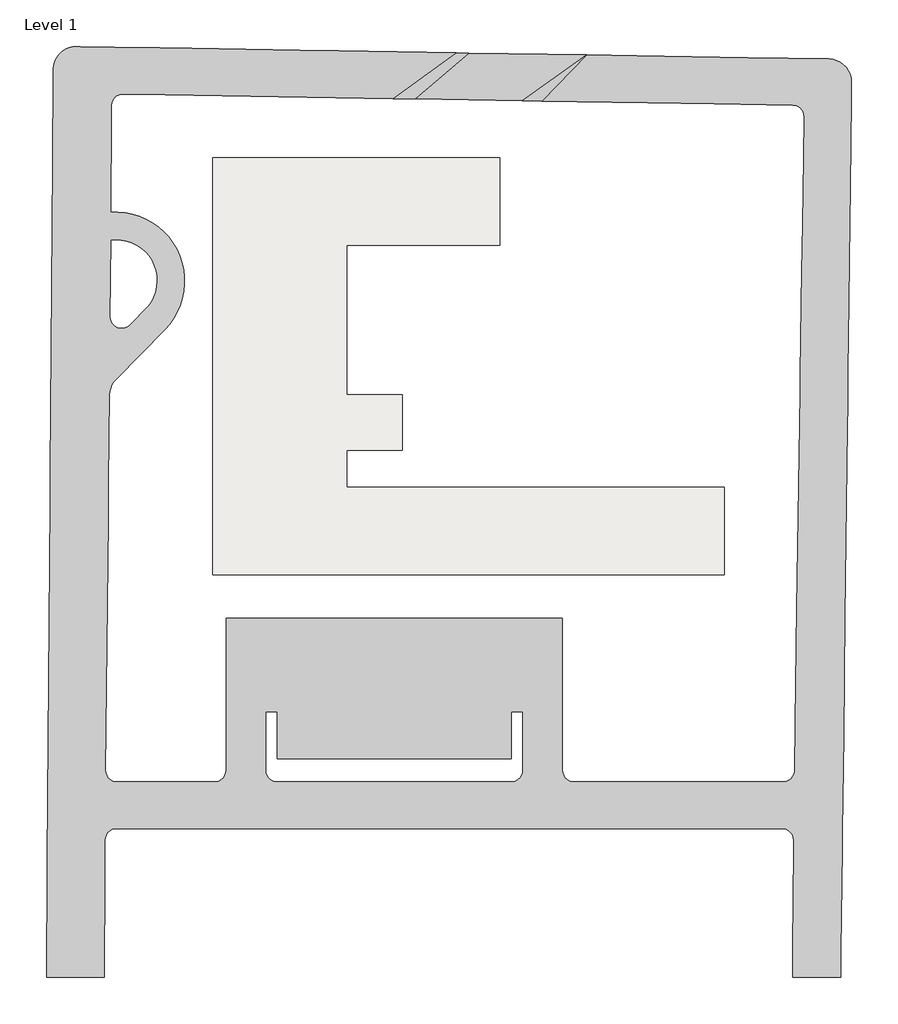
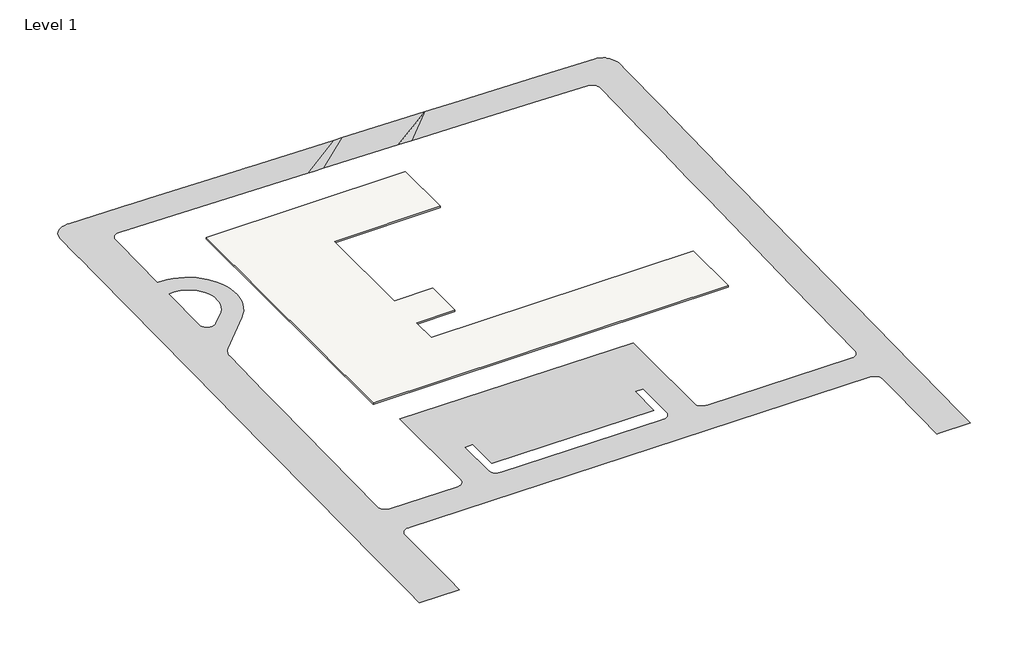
# One storey, incomplete: 1 proxy, 1 slab.
"""IFC4 building model written with IfcOpenShell, lengths in millimetres."""

from ifc_helpers import new_model, si_unit, frame, origin, place, context, project, spatial, polyline, outline, extrude, triangles, element, save

model = new_model("IFC4")

# Units and contexts
model_context = context("Model", 3, world=origin())
ifc_project = project(units=[si_unit("LENGTHUNIT", "METRE", prefix="MILLI")], contexts=[model_context])

# Site, building, storey
site = spatial("IfcSite", under=ifc_project)
building = spatial("IfcBuilding", under=site)
storey = spatial("IfcBuildingStorey", under=building, Name="Level 1", Elevation=0.0)

# Proxy
placement = place(None, origin())
element("IfcBuildingElementProxy", 1, Name="Building Element Proxy", at=placement, inside=storey, context=model_context, shape_type="Tessellation", body=[
    triangles([(70309.7548828, 43704.7137085, -503.1527547), (59746.7205688, 43879.5355957, -409.5406998), (45204.5570435, 44120.2092773, -278.9620967), (38757.531958, 44226.9097412, -221.9724431), (23364.4389771, 44481.6709351, -156.1477909), (21717.2139404, 44508.9297363, -142.0965501), (6393.8684464, 44762.5375122, -90.4671433), (5400.4215271, 44778.9783691, -82.337625), (4865.9067696, 44787.8243408, -77.7485065), (-12710.3334778, 45078.713562, 0.0), (-15873.5427246, 45131.063855, 0.0), (-16899.8986816, 45148.0535156, 0.0), (-18318.9248566, 45171.5358032, 0.0), (-27271.6376953, 45319.7081543, 0.0), (-27739.5370422, 45327.4518677, 0.0), (-28264.1631592, 45290.0215942, 0.0), (-28774.1901672, 45161.5457153, 0.0), (-29253.9399536, 44945.9681763, 0.0), (-29688.6669067, 44649.9211304, 0.0), (-30065.011377, 44282.4970459, 0.0), (-30371.4019775, 43854.9975586, 0.0), (-30598.4230042, 43380.5567505, 0.0), (-30739.095813, 42873.755127, 0.0), (-30774.2820374, 42505.3404053, 0.0), (-30789.0997375, 42350.1824341, 0.0), (-30826.2091003, 37362.3357239, 0.0), (-30846.2706665, 34666.046814, 0.0), (-30866.6136108, 31931.7206909, 0.0), (-30881.1615601, 29976.3260925, 0.0), (-31178.6689819, -10010.6343109, -207.3751146), (-31210.48797, -14287.2639679, -204.6609452), (-31497.0379211, -52801.7491333, -266.5873434), (-31555.039032, -60597.5337524, -270.2372659), (-31589.4253052, -65219.0051514, -268.7266387), (-31643.7243164, -72517.2666504, -271.4929306), (-31669.8878357, -76033.9217651, -274.6117809), (-24160.2671448, -76033.9217651, -310.0829624), (-24142.5124146, -72689.0654663, -307.0827822), (-24105.6565247, -65746.3078491, -304.3811666), (-24077.8698486, -60511.7901489, -306.0387689), (-24065.2287598, -58130.4099243, -304.8994852), (-24026.1078918, -57797.9371948, -304.9195058), (-23914.2263489, -57482.4262207, -305.296881), (-23735.1558838, -57199.58302, -306.0128257), (-23497.8145569, -56963.4997559, -307.0316588), (-23214.0249023, -56785.9338501, -308.3026568), (-22897.9232666, -56675.7266235, -309.7624878), (-22565.2505493, -56638.3707642, -311.3384454), (64236.9255615, -56638.3707642, -727.4583584), (64572.5050781, -56676.3916992, -729.0862387), (64891.0763306, -56788.5243896, -730.6698629), (65176.4821655, -56969.0808105, -732.1290762), (65414.2630005, -57208.917334, -733.3898277), (65592.3591064, -57495.8672607, -734.388168), (65701.7431274, -57815.3872925, -735.0735186), (65736.8712158, -58151.2830688, -735.411216), (65725.4161011, -59481.9460327, -736.0267307), (65617.0645752, -72068.0940674, -731.8423204), (65594.0241211, -74744.2935059, -732.8418961), (65582.9224731, -76033.9217651, -733.9841955), (71858.6882446, -76033.9217651, -763.6273716), (71872.4455444, -74888.0893799, -762.6301214), (71900.9879883, -72510.8577393, -761.780464), (72058.2946655, -59409.3225586, -766.3492258), (72088.2556274, -56913.7725586, -765.2354856), (72236.0838135, -44601.7705811, -745.7063725), (72423.0165894, -29032.4023132, -755.9717342), (72719.4775635, -4341.2027504, -628.4104797), (72753.9498779, -1469.8299053, -630.6149237), (72809.2767334, 3138.1529274, -631.3624071), (72861.5572632, 7492.5426636, -597.4576089), (72914.4470581, 11897.6051788, -595.5837407), (72981.5592407, 17486.9884277, -555.8220689), (73096.2220093, 27037.1194519, -545.4053719), (73231.3532959, 38291.881311, -535.7858282), (73259.8957397, 40669.1083008, -533.0508934), (73220.8237061, 41189.0672607, -532.0520082), (73092.3059692, 41694.4085083, -530.2807137), (72878.2306641, 42169.863208, -527.790495), (72585.0625122, 42601.0694458, -524.6566383), (72221.661438, 42975.0001099, -520.9737236), (71799.0035156, 43280.3582153, -516.8530812), (71329.8554077, 43507.9210693, -512.4191949), (70828.3883423, 43650.810022, -507.805959), (65844.943689, -49064.5493408, -722.6902628), (65789.1005859, -49448.423584, -723.0558655), (65636.6912842, -49805.1366943, -722.9182285), (65397.8965576, -50110.8436157, -722.2866537), (65088.6968262, -50345.0897827, -721.2032896), (64729.7652466, -50492.2110352, -719.7405882), (64345.1050049, -50542.3707642, -717.9963633), (37077.7972778, -50542.3707642, -588.5132421), (36744.0176514, -50504.7637573, -586.8664312), (36426.9718872, -50393.8263428, -585.1785982), (36142.5636658, -50215.1163208, -583.5344035), (35905.0502563, -49977.6052368, -582.0162549), (35726.3448853, -49693.1946899, -580.7002742), (35615.4051453, -49376.1535767, -579.6525184), (35577.7981384, -49042.3692993, -578.9254552), (35577.7981384, -33859.242572, -553.9764693), (35577.7981384, -29206.3707642, -556.7423615), (19700.1347351, -29206.3707642, -470.933246), (-8262.2014984, -29206.3707642, -338.1496722), (-8262.2014984, -49042.3692993, -370.7442307), (-8299.809668, -49376.1535767, -371.1141209), (-8410.7482452, -49693.1946899, -371.1082709), (-8589.4541977, -49977.6052368, -370.7270079), (-8826.9670258, -50215.1163208, -369.9894075), (-9111.3758286, -50393.8263428, -368.9324953), (-9428.4198486, -50504.7637573, -367.6092839), (-9762.2018005, -50542.3707642, -366.0860484), (-22489.1714722, -50542.3707642, -305.6500208), (-22825.1137573, -50504.2661133, -303.9921278), (-23143.9896423, -50391.896228, -302.2932489), (-23429.5977905, -50210.9584351, -300.6396798), (-23667.4274597, -49970.6568237, -299.1154451), (-23845.3979919, -49683.1953003, -297.7979565), (-23954.4657532, -49363.1729736, -296.7541793), (-23989.0915466, -49026.8539673, -296.0371083), (-23652.649292, -16502.0508728, -244.1898914), (-23599.8943726, -11402.1330963, -247.506604), (-23482.8736084, -89.4265001, -188.980616), (-23435.7322998, 363.1888415, -186.8231895), (-23321.7694885, 803.7518847, -185.0184487), (-23143.5268799, 1222.4547432, -183.6065799), (-22904.9670227, 1609.9761475, -182.6190312), (-22611.4058716, 1957.6892258, -182.0777488), (-16262.7991974, 8428.9988754, -175.8430458), (-15636.7711304, 9137.9788559, -174.858531), (-15088.4732025, 9908.6498383, -173.2149359), (-14623.9422546, 10732.5286194, -170.9304096), (-14248.2919281, 11600.5442413, -168.0300416), (-13965.658017, 12503.1414734, -164.5458066), (-13779.1507965, 13430.3848755, -160.5160562), (-13690.8247925, 14372.0646057, -155.9851373), (-13701.6508759, 15317.8173431, -151.0029196), (-13811.5116119, 16257.2297699, -145.624269), (-14019.1954468, 17179.959494, -139.9083933), (-14322.4187988, 18075.8513214, -133.9182157), (-14717.8411743, 18935.0395752, -127.7196841), (-15201.1093506, 19748.0690186, -121.3810176), (-15766.9062103, 20505.9855469, -114.9720157), (-16409.0007385, 21200.4478088, -108.5632226), (-17120.3235992, 21823.812085, -102.225192), (-17893.0473633, 22369.2160034, -96.027696), (-18718.662085, 22830.6506287, -90.0389536), (-19588.0811096, 23203.0418518, -84.3249038), (-20491.7329285, 23482.2875977, -78.9484514), (-21419.6693115, 23665.3136353, -73.9687681), (-22361.6746033, 23750.1084595, -69.4406833), (-23307.3796692, 23735.7325928, -65.4140441), (-23213.5342346, 36349.1487305, 0.0), (-23203.9185425, 37641.6768127, 0.0), (-23163.3768311, 37977.0679688, 0.0), (-23048.8094055, 38294.8811279, 0.0), (-22866.0228882, 38578.9940186, 0.0), (-22624.2911316, 38814.9958923, 0.0), (-22335.8738525, 38990.915387, 0.0), (-22015.4050415, 39097.8274658, 0.0), (-21679.1371948, 39130.3092041, 0.0), (-19902.6805115, 39100.9109985, 0.0), (13483.4025696, 38548.3703064, -147.6833275), (14498.7126892, 38531.5666809, -156.4003554), (16385.7649475, 38500.3360291, -171.8423816), (30338.1388916, 38269.4245422, -218.8525208), (32875.1398499, 38227.4364075, -240.4937689), (46729.6360474, 37998.1434265, -299.7389899), (55435.3325684, 37854.0638489, -376.6945579), (65630.1847046, 37685.3392639, -468.2372987), (65962.9318359, 37642.302356, -471.261242), (66277.7870361, 37526.3815247, -474.1950019), (66559.0024292, 37343.376416, -476.8917123), (66792.4998047, 37102.4422852, -479.216534), (66966.6054565, 36815.6318848, -481.0531225), (67072.6082886, 36497.2978271, -482.3095865), (67105.1969971, 36163.3670471, -482.9230665), (67025.2297852, 30755.4808594, -487.4104743), (66899.3025879, 22239.1774292, -496.4906977), (66805.7827148, 15914.661145, -541.4088498), (66746.6886475, 11918.2597321, -543.0141661), (66673.7163574, 6983.4778061, -581.3936912), (66611.0922729, 2748.2101593, -580.6102361), (66572.0760498, 109.7885112, -578.5216281), (66158.1664307, -27882.1446167, -722.7978144), (65938.2217163, -42756.2134644, -712.767322), (-1581.9995121, -47494.3707642, -399.9225732), (28897.5965881, -47494.3707642, -544.6597778), (28897.5965881, -41398.3707642, -534.642802), (30421.5965881, -41398.3707642, -541.8797513), (30421.5965881, -49042.3692993, -554.4403945), (30383.9895813, -49376.1535767, -554.8102847), (30273.0498413, -49693.1946899, -554.8044348), (30094.3444702, -49977.6052368, -554.4231717), (29856.8310608, -50215.1163208, -553.6856077), (29572.4228394, -50393.8263428, -552.6286955), (29255.3770752, -50504.7637573, -551.3054478), (28921.5974487, -50542.3707642, -549.7822123), (-1605.9993553, -50542.3707642, -404.8170782), (-1939.7807259, -50504.7637573, -403.1702674), (-2256.8250366, -50393.8263428, -401.4824344), (-2541.2341301, -50215.1163208, -399.8382397), (-2778.7466675, -49977.6052368, -398.3200911), (-2957.4526199, -49693.1946899, -397.0041103), (-3068.3911972, -49376.1535767, -395.9563545), (-3105.9993668, -49042.3692993, -395.2292913), (-3105.9993668, -41398.3707642, -382.6686481), (-1581.9995121, -41398.3707642, -389.9055974), (-23329.5411072, 20062.4428528, -84.4863946), (-22621.2355042, 20122.8182373, -87.2433394), (-21911.2137268, 20088.0784973, -90.5041051), (-21212.1866272, 19958.8398743, -94.2102924), (-20536.6766968, 19737.4208313, -98.2955081), (-19896.7808716, 19427.7839172, -102.68661), (-19303.9589172, 19035.4776306, -107.3049419), (-18768.829953, 18567.527124, -112.0677871), (-18300.9771149, 18032.3132813, -116.8898583), (-17908.7801239, 17439.420401, -121.6847872), (-17599.2606445, 16799.4687653, -126.3667053), (-17377.9648499, 16123.9181396, -130.8517422), (-17248.854126, 15424.8677856, -135.0595977), (-17214.2422852, 14714.8378693, -138.9148856), (-17274.7478943, 14006.5438934, -142.3485786), (-17429.2872986, 13312.6722931, -145.2991798), (-17675.0943878, 12645.649054, -147.7138307), (-18007.7659424, 12017.4211212, -149.5493019), (-18421.3430237, 11439.2389709, -150.7727011), (-20791.7983337, 9022.9684341, -153.1006295), (-21073.2044128, 8797.119429, -153.0586989), (-21399.8193604, 8643.7590225, -152.4424029), (-21753.3349915, 8571.483783, -151.2863143), (-22113.9339111, 8584.3452072, -149.6552366), (-22461.4010742, 8681.6229904, -147.6405885), (-22776.2609253, 8857.8639771, -145.3553174), (-23040.8610535, 9103.1879562, -142.9275313), (-23240.3698059, 9403.8428604, -140.493314), (-23363.6018188, 9742.9750671, -138.1891305), (-23403.6505371, 10101.5741089, -136.1441427)], [[36, 37, 38], [36, 38, 35], [34, 35, 39], [33, 34, 40], [33, 42, 32], [38, 39, 35], [40, 41, 33], [39, 40, 34], [42, 43, 32], [44, 45, 32], [43, 44, 32], [41, 42, 33], [32, 45, 115], [117, 118, 32], [116, 117, 32], [121, 30, 31], [119, 120, 31], [32, 119, 31], [121, 31, 120], [119, 32, 118], [123, 30, 122], [30, 123, 124], [30, 236, 237], [124, 235, 236], [125, 235, 124], [124, 236, 30], [122, 30, 121], [116, 32, 115], [30, 237, 29], [45, 46, 115], [114, 46, 47], [113, 47, 48], [114, 47, 113], [234, 126, 127], [235, 126, 234], [114, 115, 46], [127, 229, 230], [128, 228, 127], [127, 230, 231], [232, 127, 231], [229, 127, 228], [128, 227, 228], [112, 113, 48], [232, 233, 127], [233, 234, 127], [225, 226, 130], [223, 224, 132], [225, 131, 224], [128, 226, 227], [130, 131, 225], [131, 132, 224], [132, 133, 223], [222, 133, 134], [222, 223, 133], [134, 135, 222], [222, 135, 221], [130, 226, 129], [129, 226, 128], [48, 111, 112], [126, 235, 125], [29, 208, 151], [208, 29, 237], [29, 151, 152], [27, 28, 152], [26, 152, 153], [152, 26, 27], [28, 29, 152], [151, 208, 209], [209, 210, 150], [153, 154, 26], [26, 155, 25], [154, 155, 26], [150, 151, 209], [25, 155, 156], [24, 22, 23], [18, 19, 24], [22, 24, 21], [20, 21, 24], [19, 20, 24], [24, 25, 15], [25, 14, 15], [25, 156, 14], [14, 157, 158], [14, 158, 159], [18, 24, 17], [24, 16, 17], [15, 16, 24], [159, 13, 14], [156, 157, 14], [150, 210, 149], [217, 218, 140], [141, 216, 217], [146, 212, 213], [143, 214, 215], [145, 213, 214], [215, 216, 142], [137, 219, 220], [221, 136, 220], [136, 221, 135], [137, 220, 136], [218, 139, 140], [139, 218, 138], [137, 138, 219], [218, 219, 138], [140, 141, 217], [212, 147, 211], [212, 146, 147], [211, 147, 148], [210, 148, 149], [160, 161, 13], [148, 210, 211], [161, 10, 11], [214, 144, 145], [144, 214, 143], [145, 146, 213], [161, 12, 13], [12, 161, 11], [215, 142, 143], [216, 141, 142], [160, 13, 159], [199, 109, 110], [200, 108, 109], [107, 108, 201], [201, 202, 107], [201, 108, 200], [107, 202, 106], [48, 110, 111], [110, 48, 199], [198, 48, 197], [96, 193, 194], [194, 195, 95], [48, 49, 197], [199, 200, 109], [199, 48, 198], [106, 203, 105], [106, 202, 203], [105, 203, 204], [206, 104, 205], [205, 104, 204], [104, 105, 204], [192, 193, 97], [97, 98, 192], [97, 193, 96], [192, 98, 191], [99, 190, 191], [191, 98, 99], [99, 189, 190], [207, 186, 187], [195, 196, 94], [59, 60, 62], [58, 59, 63], [89, 51, 52], [53, 54, 65], [52, 53, 65], [62, 63, 59], [62, 60, 61], [64, 58, 63], [58, 64, 57], [55, 56, 65], [64, 65, 56], [56, 57, 64], [55, 65, 54], [88, 52, 65], [92, 49, 91], [197, 92, 93], [91, 49, 50], [95, 96, 194], [94, 196, 93], [195, 94, 95], [49, 92, 197], [50, 90, 91], [50, 51, 90], [90, 51, 89], [88, 89, 52], [87, 65, 86], [66, 85, 86], [65, 87, 88], [66, 86, 65], [93, 196, 197], [85, 66, 185], [207, 187, 188], [206, 207, 103], [103, 207, 102], [102, 100, 101], [188, 100, 102], [207, 188, 102], [188, 189, 100], [206, 103, 104], [100, 189, 99], [185, 67, 184], [168, 169, 2], [1, 169, 170], [2, 169, 1], [170, 171, 1], [6, 7, 162], [163, 6, 162], [161, 9, 10], [7, 8, 162], [9, 162, 8], [163, 164, 6], [162, 9, 161], [4, 165, 166], [166, 167, 4], [3, 168, 2], [3, 167, 168], [6, 164, 5], [3, 4, 167], [5, 165, 4], [5, 164, 165], [171, 172, 1], [182, 70, 181], [180, 181, 71], [72, 179, 180], [177, 178, 74], [178, 179, 73], [182, 183, 70], [68, 183, 184], [69, 70, 183], [68, 69, 183], [71, 72, 180], [73, 74, 178], [72, 73, 179], [70, 71, 181], [184, 67, 68], [177, 74, 75], [75, 174, 175], [75, 173, 174], [76, 172, 173], [77, 84, 1], [78, 83, 84], [1, 172, 76], [175, 176, 75], [78, 84, 77], [76, 77, 1], [78, 79, 83], [81, 82, 80], [79, 80, 82], [83, 79, 82], [76, 173, 75], [176, 177, 75], [185, 66, 67]], closed=False),
])

# Slab
element("IfcSlab", 2, ObjectType="Pad 1", at=placement, inside=storey, context=model_context, shape_type="SweptSolid", body=[
    extrude(outline(polyline([(27411.8999097, 30818.5799804), (27411.8999097, 19414.8392059), (7447.5010724, 19414.8392059), (7447.5010724, -89.4607941), (14709.0902051, -89.4607941), (14709.0902051, -7283.8611817), (7447.5010724, -7283.8611817), (7447.5010724, -12132.3615692), (56699.1173382, -12132.3615692), (56699.1173382, -23510.7006057), (-10026.8386635, -23510.7006057), (-10026.8386635, 30818.5799804), (27411.8999097, 30818.5799804)])), frame((0.0, 0.0, -304.8), z_axis=(0.0, 0.0, 1.0), x_axis=(1.0, 0.0, 0.0)), (0.0, 0.0, 1.0), 304.8),
])

save(model, "model.ifc")
